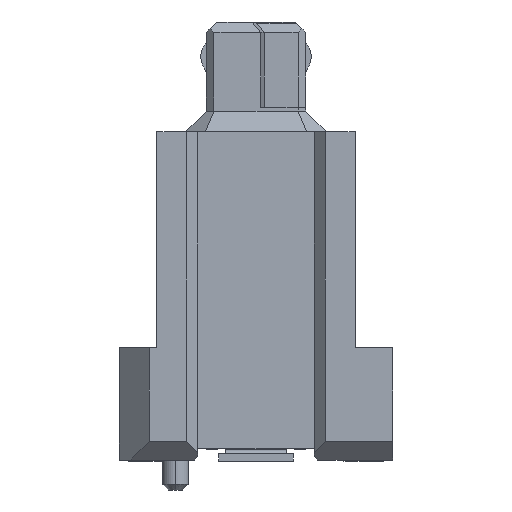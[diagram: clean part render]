
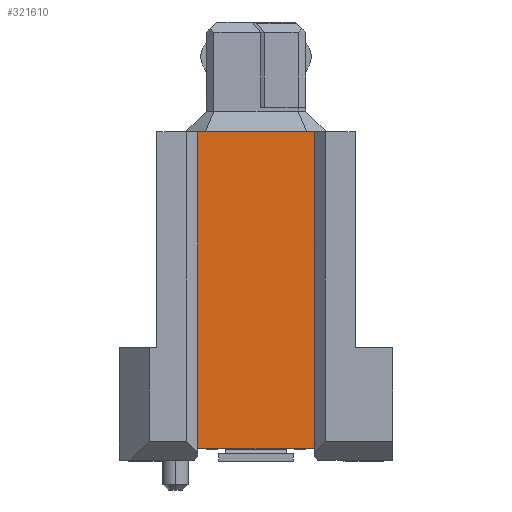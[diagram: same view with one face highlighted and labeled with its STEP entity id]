
A CAD part, left-side view. The second image highlights one B-rep face of the part: STEP entity #321610.
In plain terms, the highlighted planar face has unit normal (-1, 0, 0).
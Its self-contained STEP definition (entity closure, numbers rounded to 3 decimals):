
#164790=CARTESIAN_POINT('',(4.968,3.41,4.2));
#164800=VERTEX_POINT('',#164790);
#164830=CARTESIAN_POINT('',(4.968,3.41,0.));
#164840=DIRECTION('',(0.,0.,-1.));
#164850=VECTOR('',#164840,1.);
#164860=LINE('',#164830,#164850);
#164870=CARTESIAN_POINT('',(4.968,3.41,1.1));
#164880=VERTEX_POINT('',#164870);
#164890=EDGE_CURVE('',#164800,#164880,#164860,.T.);
#321310=CARTESIAN_POINT('',(4.968,-2.36,5.3));
#321320=DIRECTION('',(-1.,0.,0.));
#321330=DIRECTION('',(0.,1.,0.));
#321340=AXIS2_PLACEMENT_3D('',#321310,#321320,#321330);
#321350=PLANE('',#321340);
#321360=ORIENTED_EDGE('',*,*,#164890,.T.);
#321370=CARTESIAN_POINT('',(4.968,1.,4.2));
#321380=DIRECTION('',(0.,-1.,0.));
#321390=VECTOR('',#321380,1.);
#321400=LINE('',#321370,#321390);
#321410=CARTESIAN_POINT('',(4.968,-5.06,4.2));
#321420=VERTEX_POINT('',#321410);
#321430=EDGE_CURVE('',#164800,#321420,#321400,.T.);
#321440=ORIENTED_EDGE('',*,*,#321430,.F.);
#321450=CARTESIAN_POINT('',(4.968,-5.06,0.));
#321460=DIRECTION('',(0.,0.,-1.));
#321470=VECTOR('',#321460,1.);
#321480=LINE('',#321450,#321470);
#321490=CARTESIAN_POINT('',(4.968,-5.06,1.1));
#321500=VERTEX_POINT('',#321490);
#321510=EDGE_CURVE('',#321420,#321500,#321480,.T.);
#321520=ORIENTED_EDGE('',*,*,#321510,.F.);
#321530=CARTESIAN_POINT('',(4.968,-1.36,1.1));
#321540=DIRECTION('',(0.,1.,0.));
#321550=VECTOR('',#321540,1.);
#321560=LINE('',#321530,#321550);
#321570=EDGE_CURVE('',#321500,#164880,#321560,.T.);
#321580=ORIENTED_EDGE('',*,*,#321570,.F.);
#321590=EDGE_LOOP('',(#321580,#321520,#321440,#321360));
#321600=FACE_OUTER_BOUND('',#321590,.T.);
#321610=ADVANCED_FACE('',(#321600),#321350,.T.);
